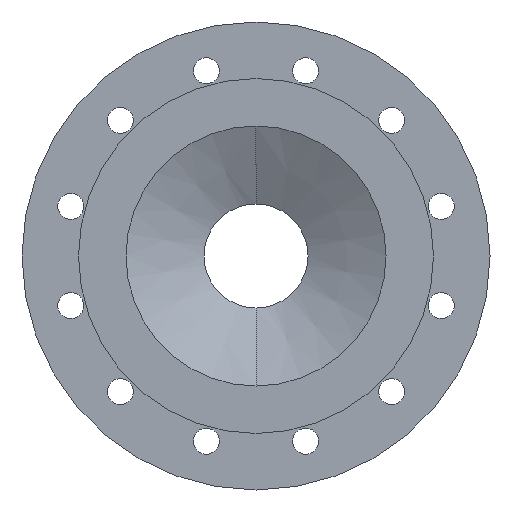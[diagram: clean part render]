
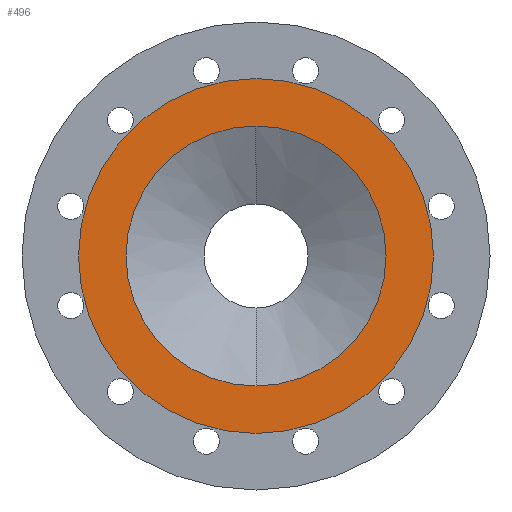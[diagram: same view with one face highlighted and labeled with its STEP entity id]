
A CAD part, left-side view. The second image highlights one B-rep face of the part: STEP entity #496.
In plain terms, the highlighted planar face has unit normal (-1, 0, 0).
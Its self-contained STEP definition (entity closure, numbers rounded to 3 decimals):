
#496=ADVANCED_FACE('',(#944,#945),#946,.F.);
#944=FACE_BOUND('',#1495,.T.);
#945=FACE_OUTER_BOUND('',#1496,.T.);
#946=PLANE('',#1497);
#1495=EDGE_LOOP('',(#2315,#2316));
#1496=EDGE_LOOP('',(#2317,#2318));
#1497=AXIS2_PLACEMENT_3D('',#2319,#2320,#2321);
#2315=ORIENTED_EDGE('',*,*,#3103,.T.);
#2316=ORIENTED_EDGE('',*,*,#3154,.T.);
#2317=ORIENTED_EDGE('',*,*,#3155,.F.);
#2318=ORIENTED_EDGE('',*,*,#3156,.F.);
#2319=CARTESIAN_POINT('',(0.0,0.0,0.));
#2320=DIRECTION('',(1.0,0.0,0.));
#2321=DIRECTION('',(0.,0.0,-1.0));
#3103=EDGE_CURVE('',#3686,#3688,#3690,.T.);
#3154=EDGE_CURVE('',#3688,#3686,#3759,.T.);
#3155=EDGE_CURVE('',#3760,#3761,#3762,.T.);
#3156=EDGE_CURVE('',#3761,#3760,#3763,.T.);
#3686=VERTEX_POINT('',#4458);
#3688=VERTEX_POINT('',#4461);
#3690=CIRCLE('',#4464,100.0);
#3759=CIRCLE('',#4557,100.0);
#3760=VERTEX_POINT('',#4558);
#3761=VERTEX_POINT('',#4559);
#3762=CIRCLE('',#4560,136.5);
#3763=CIRCLE('',#4561,136.5);
#4458=CARTESIAN_POINT('',(0.,0.0,-100.0));
#4461=CARTESIAN_POINT('',(0.,0.,100.0));
#4464=AXIS2_PLACEMENT_3D('',#5055,#5056,#5057);
#4557=AXIS2_PLACEMENT_3D('',#5103,#5104,#5105);
#4558=CARTESIAN_POINT('',(0.,0.0,-136.5));
#4559=CARTESIAN_POINT('',(0.,0.,136.5));
#4560=AXIS2_PLACEMENT_3D('',#5106,#5107,#5108);
#4561=AXIS2_PLACEMENT_3D('',#5109,#5110,#5111);
#5055=CARTESIAN_POINT('',(0.0,0.0,0.0));
#5056=DIRECTION('',(1.0,0.0,0.));
#5057=DIRECTION('',(0.,0.0,-1.0));
#5103=CARTESIAN_POINT('',(0.0,0.0,0.0));
#5104=DIRECTION('',(1.0,0.0,0.));
#5105=DIRECTION('',(0.,0.0,-1.0));
#5106=CARTESIAN_POINT('',(0.0,0.0,0.));
#5107=DIRECTION('',(1.0,0.0,0.));
#5108=DIRECTION('',(0.,0.0,-1.0));
#5109=CARTESIAN_POINT('',(0.0,0.0,0.));
#5110=DIRECTION('',(1.0,0.0,0.));
#5111=DIRECTION('',(0.,0.0,-1.0));
